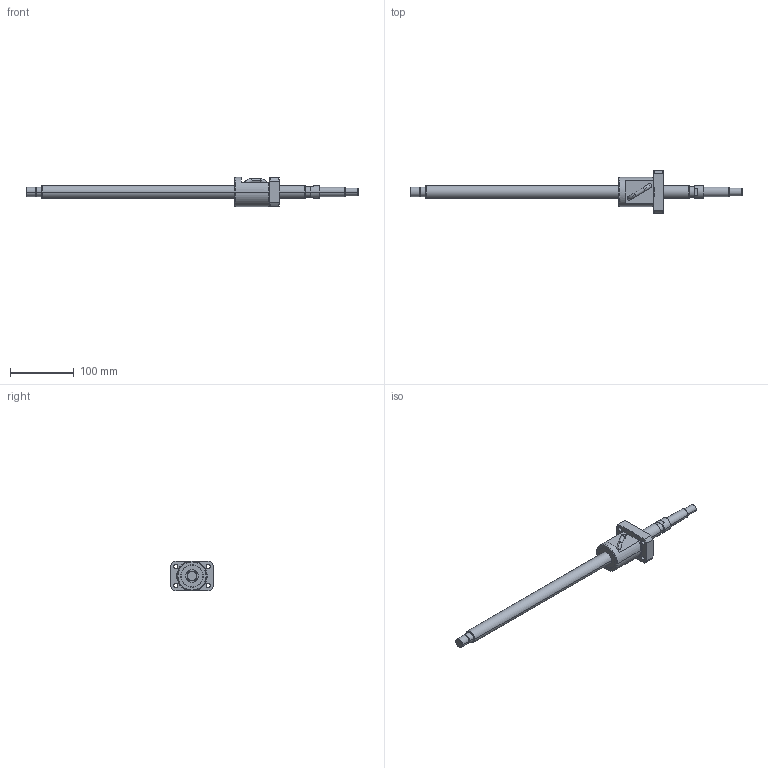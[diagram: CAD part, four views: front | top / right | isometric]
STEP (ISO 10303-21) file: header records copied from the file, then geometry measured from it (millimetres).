
FILE_DESCRIPTION (( 'STEP AP214' ), '1' );
FILE_NAME ('BS2020A-3D.STEP', '2014-03-05T14:52:44', ( '' ), ( '' ), 'SwSTEP 2.0', 'SolidWorks 2012', '' );
FILE_SCHEMA (( 'AUTOMOTIVE_DESIGN' ));
Length unit declared in the file: millimetre
Products named in the file (3): BS2020Aナット; BS2020AŽ²; BS2020A-3D
Assembly tree (2 placements, depth 2):
  BS2020A-3D
    BS2020AŽ²
    BS2020Aナット
Bounding box: 520 x 66 x 46 mm (x, y, z)
Volume: 246257.5 mm3; surface area: 56897.1 mm2
Topology: 2 solids, 2 shells, 156 faces, 396 edges, 254 vertices
Faces by surface type: cylinder 74, plane 42, cone 34, torus 4, bspline 2
Entity records: 5990 total; most frequent: CARTESIAN_POINT 1990, DIRECTION 832, ORIENTED_EDGE 788, EDGE_CURVE 394, AXIS2_PLACEMENT_3D 346, VERTEX_POINT 254, EDGE_LOOP 188, CIRCLE 187
